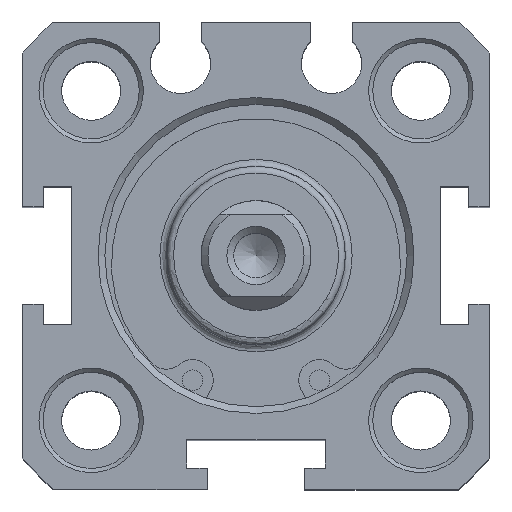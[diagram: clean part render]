
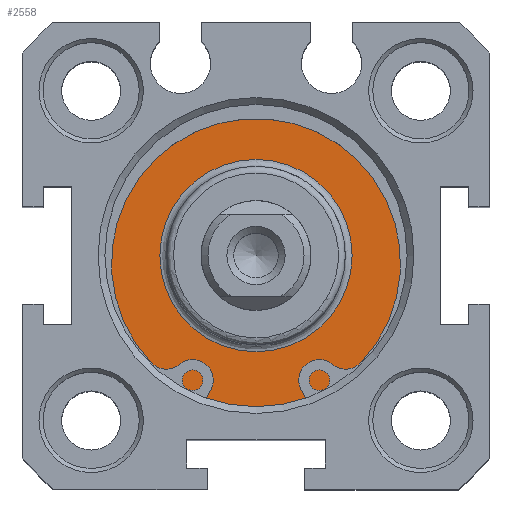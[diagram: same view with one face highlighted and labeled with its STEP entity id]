
A CAD part, top view. The second image highlights one B-rep face of the part: STEP entity #2558.
In plain terms, the highlighted planar face has unit normal (0, 0, 1).
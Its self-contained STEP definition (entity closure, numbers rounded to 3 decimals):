
#2507=CARTESIAN_POINT('',(0.24,8.683,36.8));
#2508=VERTEX_POINT('',#2507);
#2509=CARTESIAN_POINT('',(0.24,1.683,36.8));
#2510=DIRECTION('',(0.0,0.0,1.0));
#2511=DIRECTION('',(0.0,-1.0,0.0));
#2512=AXIS2_PLACEMENT_3D('',#2509,#2510,#2511);
#2513=CIRCLE('',#2512,7.);
#2514=EDGE_CURVE('',#2508,#2508,#2513,.T.);
#2539=CARTESIAN_POINT('',(0.24,10.433,36.8));
#2540=DIRECTION('',(0.0,0.0,1.0));
#2541=DIRECTION('',(1.0,0.0,0.0));
#2542=AXIS2_PLACEMENT_3D('',#2539,#2540,#2541);
#2543=PLANE('',#2542);
#2544=CARTESIAN_POINT('',(0.24,12.683,36.8));
#2545=VERTEX_POINT('',#2544);
#2546=CARTESIAN_POINT('',(0.24,1.683,36.8));
#2547=DIRECTION('',(0.0,0.0,-1.0));
#2548=DIRECTION('',(0.0,1.0,0.0));
#2549=AXIS2_PLACEMENT_3D('',#2546,#2547,#2548);
#2550=CIRCLE('',#2549,11.0);
#2551=EDGE_CURVE('',#2545,#2545,#2550,.T.);
#2552=ORIENTED_EDGE('',*,*,#2551,.F.);
#2553=EDGE_LOOP('',(#2552));
#2554=FACE_OUTER_BOUND('',#2553,.T.);
#2555=ORIENTED_EDGE('',*,*,#2514,.F.);
#2556=EDGE_LOOP('',(#2555));
#2557=FACE_BOUND('',#2556,.T.);
#2558=ADVANCED_FACE('',(#2554,#2557),#2543,.T.);
